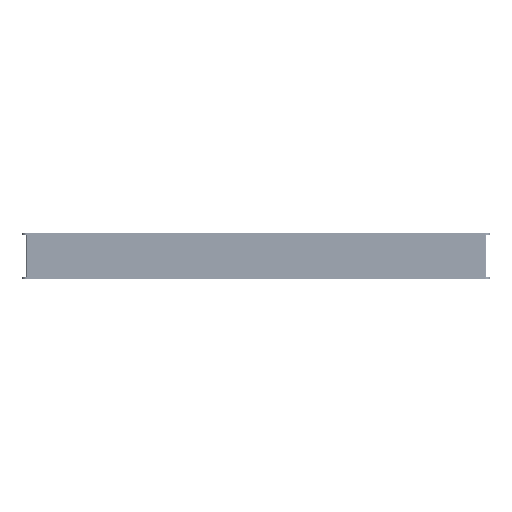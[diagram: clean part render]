
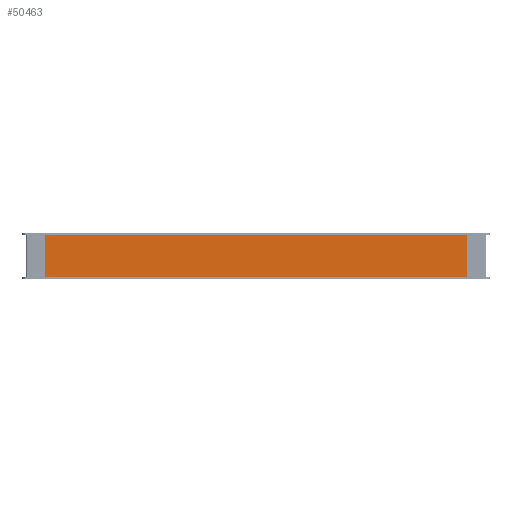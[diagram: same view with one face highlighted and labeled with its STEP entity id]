
A CAD part, left-side view. The second image highlights one B-rep face of the part: STEP entity #50463.
In plain terms, the highlighted planar face has unit normal (-1, 0, 0).
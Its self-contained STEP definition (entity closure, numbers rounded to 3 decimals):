
#360 = DIRECTION ( 'NONE',  ( 0., 0., -1. ) ) ;
#3392 = EDGE_CURVE ( 'NONE', #51704, #52149, #21213, .T. ) ;
#10064 = CARTESIAN_POINT ( 'NONE',  ( -875.983, -448.14, -131.045 ) ) ;
#10295 = PLANE ( 'NONE',  #65158 ) ;
#14061 = EDGE_CURVE ( 'NONE', #129596, #138561, #111867, .T. ) ;
#21213 = LINE ( 'NONE', #132244, #46032 ) ;
#22152 = VECTOR ( 'NONE', #127028, 1000. ) ;
#25172 = FACE_OUTER_BOUND ( 'NONE', #141670, .T. ) ;
#29822 = CARTESIAN_POINT ( 'NONE',  ( -875.983, -448.14, -131.045 ) ) ;
#37031 = ORIENTED_EDGE ( 'NONE', *, *, #116217, .T. ) ;
#39453 = LINE ( 'NONE', #130157, #58670 ) ;
#46032 = VECTOR ( 'NONE', #360, 1000. ) ;
#50463 = ADVANCED_FACE ( 'NONE', ( #25172 ), #10295, .F. ) ;
#51704 = VERTEX_POINT ( 'NONE', #74760 ) ;
#52149 = VERTEX_POINT ( 'NONE', #117533 ) ;
#54278 = ORIENTED_EDGE ( 'NONE', *, *, #3392, .T. ) ;
#58670 = VECTOR ( 'NONE', #143978, 1000. ) ;
#65158 = AXIS2_PLACEMENT_3D ( 'NONE', #133066, #84442, #145333 ) ;
#71911 = DIRECTION ( 'NONE',  ( 0., -1., 0. ) ) ;
#74760 = CARTESIAN_POINT ( 'NONE',  ( -875.983, 517.86, -42.045 ) ) ;
#84442 = DIRECTION ( 'NONE',  ( 1., 0., 0. ) ) ;
#89112 = CARTESIAN_POINT ( 'NONE',  ( -875.983, -448.14, -42.045 ) ) ;
#91438 = LINE ( 'NONE', #10064, #143102 ) ;
#106151 = ORIENTED_EDGE ( 'NONE', *, *, #14061, .T. ) ;
#107029 = CARTESIAN_POINT ( 'NONE',  ( -875.983, -448.14, -42.045 ) ) ;
#111867 = LINE ( 'NONE', #89112, #22152 ) ;
#112464 = EDGE_CURVE ( 'NONE', #52149, #129596, #91438, .T. ) ;
#116217 = EDGE_CURVE ( 'NONE', #138561, #51704, #39453, .T. ) ;
#117533 = CARTESIAN_POINT ( 'NONE',  ( -875.983, 517.86, -131.045 ) ) ;
#127028 = DIRECTION ( 'NONE',  ( 0., 0., 1. ) ) ;
#129596 = VERTEX_POINT ( 'NONE', #29822 ) ;
#130157 = CARTESIAN_POINT ( 'NONE',  ( -875.983, -448.14, -42.045 ) ) ;
#131668 = ORIENTED_EDGE ( 'NONE', *, *, #112464, .T. ) ;
#132244 = CARTESIAN_POINT ( 'NONE',  ( -875.983, 517.86, -42.045 ) ) ;
#133066 = CARTESIAN_POINT ( 'NONE',  ( -875.983, 34.86, -86.545 ) ) ;
#138561 = VERTEX_POINT ( 'NONE', #107029 ) ;
#141670 = EDGE_LOOP ( 'NONE', ( #54278, #131668, #106151, #37031 ) ) ;
#143102 = VECTOR ( 'NONE', #71911, 1000. ) ;
#143978 = DIRECTION ( 'NONE',  ( 0., 1., 0. ) ) ;
#145333 = DIRECTION ( 'NONE',  ( 0., -1., 0. ) ) ;
